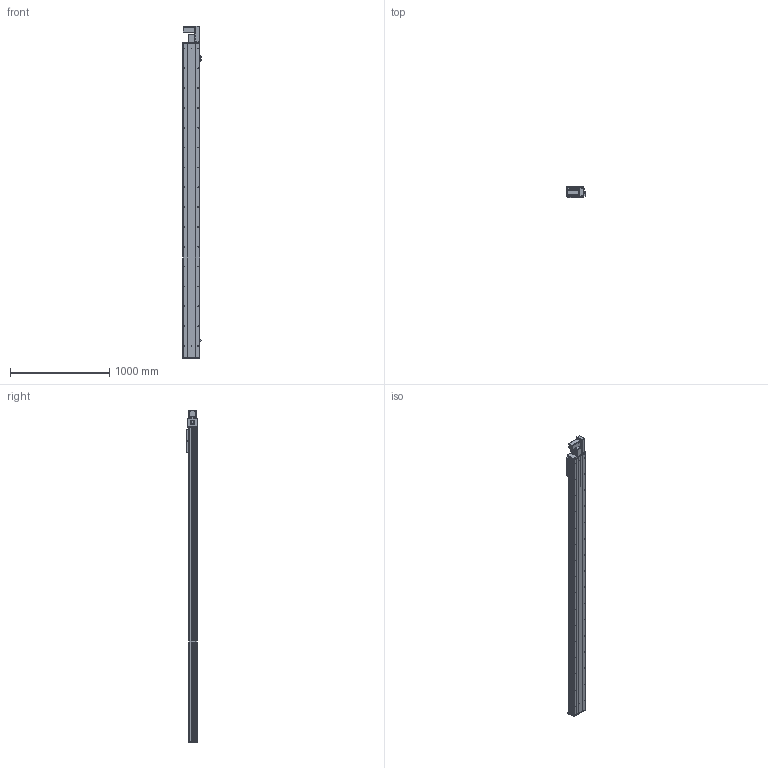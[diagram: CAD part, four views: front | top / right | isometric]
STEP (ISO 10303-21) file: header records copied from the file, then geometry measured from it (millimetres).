
FILE_DESCRIPTION (( 'STEP AP203' ), '1' );
FILE_NAME ('Y170CB-D105-S2850-BR-P400W.STEP', '2020-02-20T00:49:13', ( '微软用户' ), ( '微软中国' ), 'SwSTEP 2.0', 'SolidWorks 2017', '' );
FILE_SCHEMA (( 'CONFIG_CONTROL_DESIGN' ));
Length unit declared in the file: millimetre
Products named in the file (17): 70CB--耜裔; 17B-耜蚾蟀諉啣----; 70C-雄赽釱-奻-; 0B-萇儂楊擘啣; 0C--雄赽釱俋欶-170; san松下电机400不带刹车----; 70CB-詩湍--; Y70俋欶BR----; Y100-135俋离換覜ん--; 70CB-掛极-; Y170CB-陔俋离換覜結え---; --70CB --喘謫眊楊擘啣-; Y170CB-D105-S2850-BR-P400W; 70CB-耜裔啣-; 70B喘謫眊----; 70C--詩湍揤踡え-; B-源倛裔啣
Assembly tree (20 placements, depth 2):
  Y170CB-D105-S2850-BR-P400W
    70B喘謫眊----
    B-源倛裔啣
    17B-耜蚾蟀諉啣----
    0B-萇儂楊擘啣
    san松下电机400不带刹车----
    Y70俋欶BR----
    70CB-掛极-
    --70CB --喘謫眊楊擘啣-
    70CB-耜裔啣-  x2
    70C--詩湍揤踡え-  x2
    70CB--耜裔
    70C-雄赽釱-奻-
    0C--雄赽釱俋欶-170
    70CB-詩湍--
    Y100-135俋离換覜ん--  x3
    Y170CB-陔俋离換覜結え---
Bounding box: 183.5 x 107 x 3347 mm (x, y, z)
Volume: 13816798 mm3; surface area: 4985774.2 mm2
Topology: 20 solids, 20 shells, 1065 faces, 2873 edges, 1906 vertices
Faces by surface type: cylinder 579, plane 462, cone 24
Entity records: 34087 total; most frequent: CARTESIAN_POINT 6321, DIRECTION 5548, ORIENTED_EDGE 5228, EDGE_CURVE 2614, AXIS2_PLACEMENT_3D 2045, VERTEX_POINT 1736, VECTOR 1458, LINE 1458
